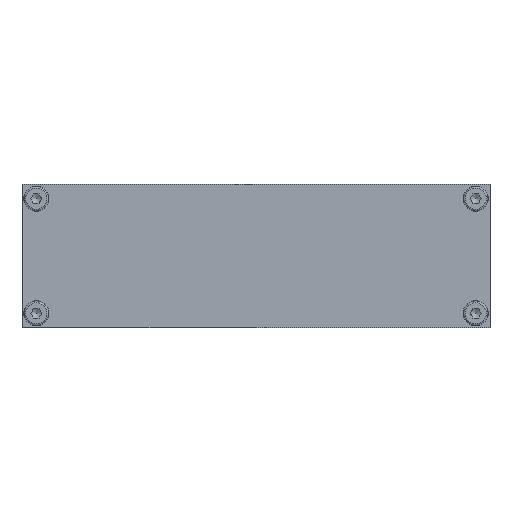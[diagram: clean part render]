
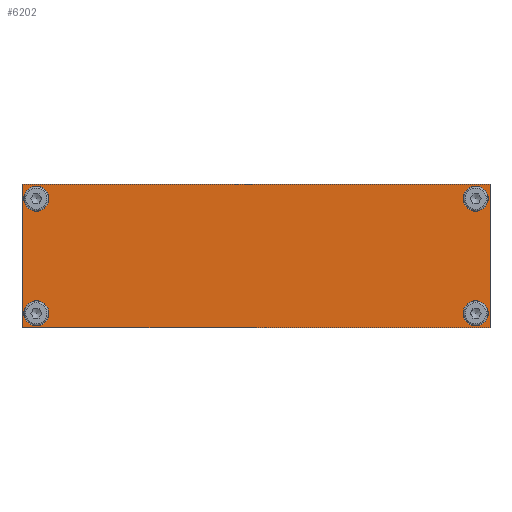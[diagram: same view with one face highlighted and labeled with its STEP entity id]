
A CAD part, top view. The second image highlights one B-rep face of the part: STEP entity #6202.
In plain terms, the highlighted planar face has unit normal (0, 0, 1).
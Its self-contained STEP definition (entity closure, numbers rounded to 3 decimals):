
#5491=CARTESIAN_POINT('',(95.465,-8.818,0.0));
#5492=VERTEX_POINT('',#5491);
#5499=CARTESIAN_POINT('',(-100.535,-8.818,0.0));
#5500=VERTEX_POINT('',#5499);
#5501=CARTESIAN_POINT('',(-100.535,-8.818,0.0));
#5502=DIRECTION('',(1.0,0.0,0.0));
#5503=VECTOR('',#5502,196.0);
#5504=LINE('',#5501,#5503);
#5505=EDGE_CURVE('',#5500,#5492,#5504,.T.);
#5714=CARTESIAN_POINT('',(94.715,-2.818,0.0));
#5715=VERTEX_POINT('',#5714);
#5716=CARTESIAN_POINT('',(89.465,-2.818,0.0));
#5717=DIRECTION('',(0.0,0.0,-1.0));
#5718=DIRECTION('',(1.0,0.0,0.0));
#5719=AXIS2_PLACEMENT_3D('',#5716,#5717,#5718);
#5720=CIRCLE('',#5719,5.25);
#5721=EDGE_CURVE('',#5715,#5715,#5720,.T.);
#5816=CARTESIAN_POINT('',(-89.285,45.182,0.0));
#5817=VERTEX_POINT('',#5816);
#5818=CARTESIAN_POINT('',(-94.535,45.182,0.0));
#5819=DIRECTION('',(0.0,0.0,-1.0));
#5820=DIRECTION('',(1.0,0.0,0.0));
#5821=AXIS2_PLACEMENT_3D('',#5818,#5819,#5820);
#5822=CIRCLE('',#5821,5.25);
#5823=EDGE_CURVE('',#5817,#5817,#5822,.T.);
#5910=CARTESIAN_POINT('',(94.715,45.182,0.0));
#5911=VERTEX_POINT('',#5910);
#5912=CARTESIAN_POINT('',(89.465,45.182,0.0));
#5913=DIRECTION('',(0.0,0.0,-1.0));
#5914=DIRECTION('',(1.0,0.0,0.0));
#5915=AXIS2_PLACEMENT_3D('',#5912,#5913,#5914);
#5916=CIRCLE('',#5915,5.25);
#5917=EDGE_CURVE('',#5911,#5911,#5916,.T.);
#6012=CARTESIAN_POINT('',(-89.285,-2.818,0.0));
#6013=VERTEX_POINT('',#6012);
#6014=CARTESIAN_POINT('',(-94.535,-2.818,0.0));
#6015=DIRECTION('',(0.0,0.0,-1.0));
#6016=DIRECTION('',(1.0,0.0,0.0));
#6017=AXIS2_PLACEMENT_3D('',#6014,#6015,#6016);
#6018=CIRCLE('',#6017,5.25);
#6019=EDGE_CURVE('',#6013,#6013,#6018,.T.);
#6073=CARTESIAN_POINT('',(95.465,51.182,0.0));
#6074=VERTEX_POINT('',#6073);
#6081=CARTESIAN_POINT('',(95.465,-8.818,0.0));
#6082=DIRECTION('',(0.0,1.0,0.0));
#6083=VECTOR('',#6082,60.);
#6084=LINE('',#6081,#6083);
#6085=EDGE_CURVE('',#5492,#6074,#6084,.T.);
#6104=CARTESIAN_POINT('',(-100.535,51.182,0.0));
#6105=VERTEX_POINT('',#6104);
#6112=CARTESIAN_POINT('',(95.465,51.182,0.0));
#6113=DIRECTION('',(-1.0,0.0,0.0));
#6114=VECTOR('',#6113,196.);
#6115=LINE('',#6112,#6114);
#6116=EDGE_CURVE('',#6074,#6105,#6115,.T.);
#6134=CARTESIAN_POINT('',(-100.535,51.182,0.0));
#6135=DIRECTION('',(0.0,-1.0,0.0));
#6136=VECTOR('',#6135,60.);
#6137=LINE('',#6134,#6136);
#6138=EDGE_CURVE('',#6105,#5500,#6137,.T.);
#6179=CARTESIAN_POINT('',(-2.535,21.182,0.0));
#6180=DIRECTION('',(0.0,0.0,1.0));
#6181=DIRECTION('',(1.0,0.0,0.0));
#6182=AXIS2_PLACEMENT_3D('',#6179,#6180,#6181);
#6183=PLANE('',#6182);
#6184=ORIENTED_EDGE('',*,*,#5505,.T.);
#6185=ORIENTED_EDGE('',*,*,#6085,.T.);
#6186=ORIENTED_EDGE('',*,*,#6116,.T.);
#6187=ORIENTED_EDGE('',*,*,#6138,.T.);
#6188=EDGE_LOOP('',(#6184,#6185,#6186,#6187));
#6189=FACE_OUTER_BOUND('',#6188,.T.);
#6190=ORIENTED_EDGE('',*,*,#5721,.T.);
#6191=EDGE_LOOP('',(#6190));
#6192=FACE_BOUND('',#6191,.T.);
#6193=ORIENTED_EDGE('',*,*,#5823,.T.);
#6194=EDGE_LOOP('',(#6193));
#6195=FACE_BOUND('',#6194,.T.);
#6196=ORIENTED_EDGE('',*,*,#5917,.T.);
#6197=EDGE_LOOP('',(#6196));
#6198=FACE_BOUND('',#6197,.T.);
#6199=ORIENTED_EDGE('',*,*,#6019,.T.);
#6200=EDGE_LOOP('',(#6199));
#6201=FACE_BOUND('',#6200,.T.);
#6202=ADVANCED_FACE('',(#6189,#6192,#6195,#6198,#6201),#6183,.T.);
